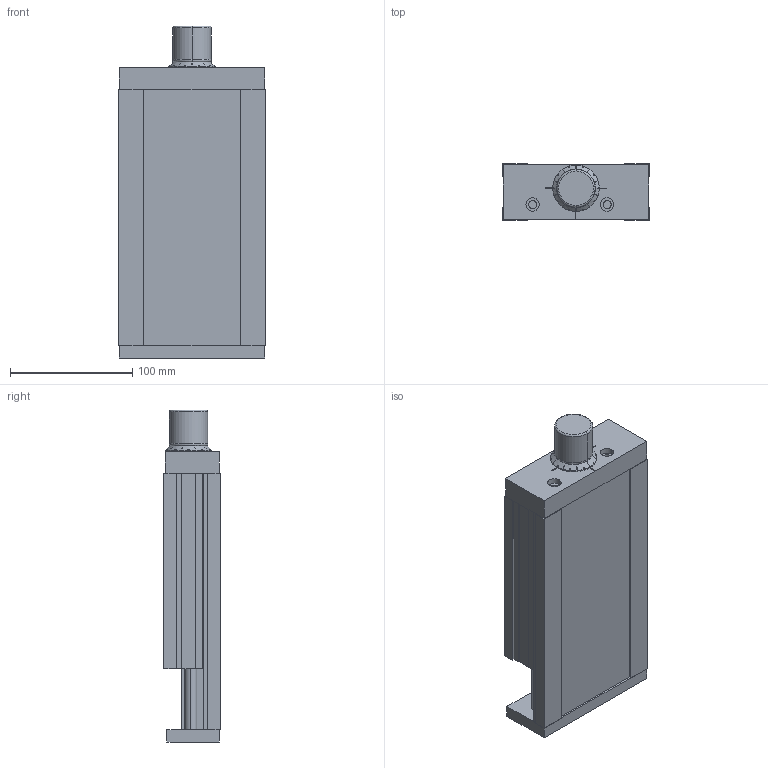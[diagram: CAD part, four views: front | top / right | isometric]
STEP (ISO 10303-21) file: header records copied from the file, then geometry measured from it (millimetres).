
FILE_DESCRIPTION (( 'STEP AP203' ), '1' );
FILE_NAME ('domiLINE 120 Hub 50.STEP', '2004-08-13T08:19:08', ( '' ), ( '' ), 'SwSTEP 2.0', 'SolidWorks 2004073', '' );
FILE_SCHEMA (( 'CONFIG_CONTROL_DESIGN' ));
Length unit declared in the file: millimetre
Products named in the file (3): Aussenteil neu 120 light-+-D005509_ _Standard; domiLINE 120 Hub 50; dL 120 light-+-D013323_ _Hub50
Assembly tree (2 placements, depth 2):
  domiLINE 120 Hub 50
    dL 120 light-+-D013323_ _Hub50
    Aussenteil neu 120 light-+-D005509_ _Standard
Bounding box: 120 x 46 x 272 mm (x, y, z)
Volume: 1033732.9 mm3; surface area: 192582.2 mm2
Topology: 2 solids, 3 shells, 262 faces, 703 edges, 464 vertices
Faces by surface type: plane 156, cylinder 59, cone 23, bspline 20, torus 4
Entity records: 9051 total; most frequent: CARTESIAN_POINT 2336, ORIENTED_EDGE 1406, DIRECTION 1222, EDGE_CURVE 703, VERTEX_POINT 464, VECTOR 450, LINE 450, AXIS2_PLACEMENT_3D 386
